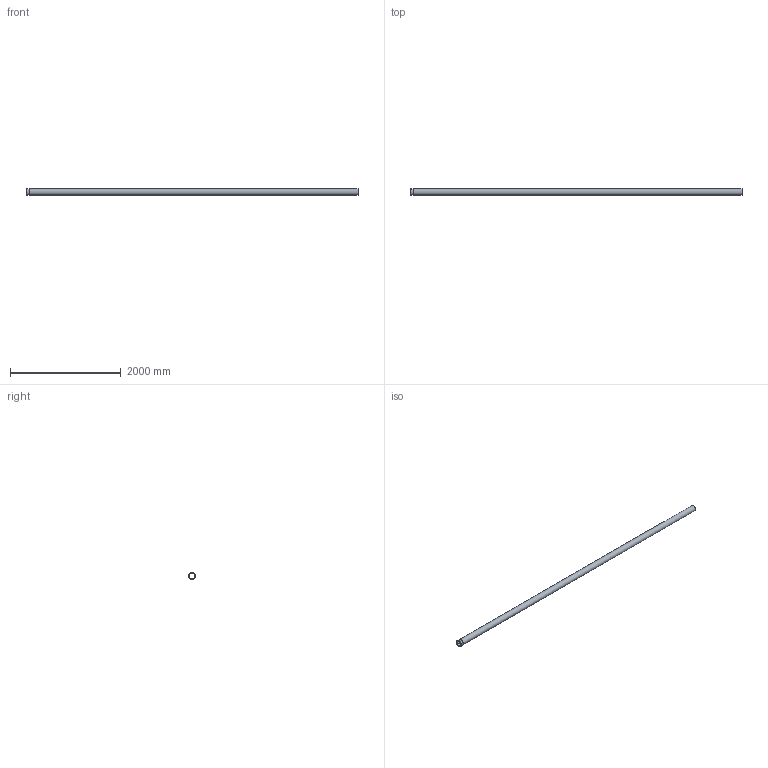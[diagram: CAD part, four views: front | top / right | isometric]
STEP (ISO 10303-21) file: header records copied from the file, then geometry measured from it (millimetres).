
FILE_DESCRIPTION((''),'2;1');
FILE_NAME('I:\WATTS\3D_CAD\3D_CAD_Models\Blucher_Drains\P_StraightPipe\WebsiteFiles\3D\STEP\P4-19.7-316.stp','2009-12-02T14:24:01',('menesek'),(''),'Autodesk Inventor 2010','Autodesk Inventor 2010','');
FILE_SCHEMA(('AUTOMOTIVE_DESIGN { 1 0 10303 214 1 1 1 1 }'));
Length unit declared in the file: inch
Products named in the file (1): P4-19.7-316
Bounding box: 6000 x 122.94 x 122.94 mm (x, y, z)
Volume: 2114062.6 mm3; surface area: 4113948.3 mm2
Topology: 1 solids, 1 shells, 109 faces, 285 edges, 190 vertices
Faces by surface type: plane 59, bspline 34, cylinder 16
Full cylindrical faces by diameter (mm): 107.95 x1, 109.982 x1, 111.252 x2, 122.936 x1
Entity records: 13900 total; most frequent: CARTESIAN_POINT 11522, ORIENTED_EDGE 548, DIRECTION 356, EDGE_CURVE 274, VERTEX_POINT 186, EDGE_LOOP 128, AXIS2_PLACEMENT_3D 120, VECTOR 116
